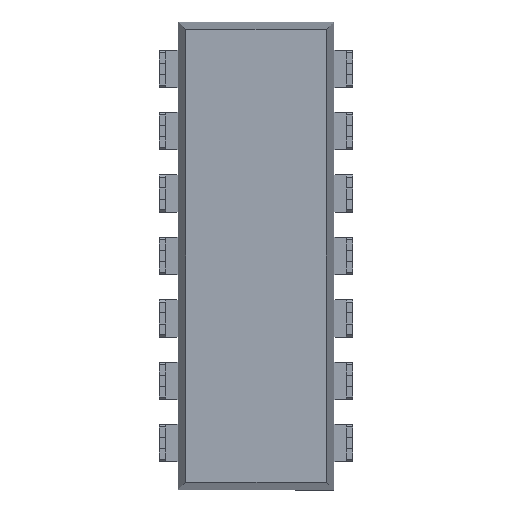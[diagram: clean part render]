
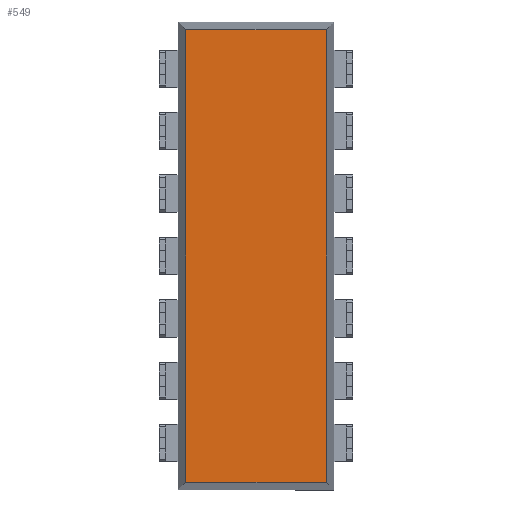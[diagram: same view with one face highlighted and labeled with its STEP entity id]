
A CAD part, front view. The second image highlights one B-rep face of the part: STEP entity #549.
In plain terms, the highlighted planar face has unit normal (0, -1, 0).
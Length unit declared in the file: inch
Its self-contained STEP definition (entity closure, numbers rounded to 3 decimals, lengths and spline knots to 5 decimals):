
#52 = ORIENTED_EDGE ( 'NONE', *, *, #1327, .T. ) ;
#146 = LINE ( 'NONE', #2403, #7204 ) ;
#169 = LINE ( 'NONE', #4476, #1226 ) ;
#240 = LINE ( 'NONE', #889, #4565 ) ;
#342 = CARTESIAN_POINT ( 'NONE',  ( 0., 0.015, 0. ) ) ;
#408 = VERTEX_POINT ( 'NONE', #6118 ) ;
#529 = EDGE_LOOP ( 'NONE', ( #7536, #52, #5809, #2800 ) ) ;
#549 = ADVANCED_FACE ( 'NONE', ( #5785 ), #1510, .T. ) ;
#889 = CARTESIAN_POINT ( 'NONE',  ( 0.125, 0.015, 0.36282 ) ) ;
#1186 = LINE ( 'NONE', #4885, #7473 ) ;
#1226 = VECTOR ( 'NONE', #2686, 39.37008 ) ;
#1327 = EDGE_CURVE ( 'NONE', #408, #7391, #169, .T. ) ;
#1510 = PLANE ( 'NONE',  #4557 ) ;
#2055 = DIRECTION ( 'NONE',  ( 0., -1., 0. ) ) ;
#2403 = CARTESIAN_POINT ( 'NONE',  ( -0.11282, 0.015, 0.375 ) ) ;
#2686 = DIRECTION ( 'NONE',  ( 1., 0., 0. ) ) ;
#2800 = ORIENTED_EDGE ( 'NONE', *, *, #4872, .T. ) ;
#3131 = DIRECTION ( 'NONE',  ( 0., 0., 1. ) ) ;
#4133 = EDGE_CURVE ( 'NONE', #7391, #6968, #1186, .T. ) ;
#4476 = CARTESIAN_POINT ( 'NONE',  ( -0.125, 0.015, -0.36282 ) ) ;
#4557 = AXIS2_PLACEMENT_3D ( 'NONE', #342, #2055, #5674 ) ;
#4565 = VECTOR ( 'NONE', #5718, 39.37008 ) ;
#4773 = DIRECTION ( 'NONE',  ( 0., 0., -1. ) ) ;
#4872 = EDGE_CURVE ( 'NONE', #6968, #5784, #240, .T. ) ;
#4885 = CARTESIAN_POINT ( 'NONE',  ( 0.11282, 0.015, -0.375 ) ) ;
#4937 = CARTESIAN_POINT ( 'NONE',  ( 0.11282, 0.015, 0.36282 ) ) ;
#5084 = EDGE_CURVE ( 'NONE', #5784, #408, #146, .T. ) ;
#5674 = DIRECTION ( 'NONE',  ( 0., 0., -1. ) ) ;
#5718 = DIRECTION ( 'NONE',  ( -1., 0., 0. ) ) ;
#5784 = VERTEX_POINT ( 'NONE', #6011 ) ;
#5785 = FACE_OUTER_BOUND ( 'NONE', #529, .T. ) ;
#5809 = ORIENTED_EDGE ( 'NONE', *, *, #4133, .T. ) ;
#6011 = CARTESIAN_POINT ( 'NONE',  ( -0.11282, 0.015, 0.36282 ) ) ;
#6118 = CARTESIAN_POINT ( 'NONE',  ( -0.11282, 0.015, -0.36282 ) ) ;
#6802 = CARTESIAN_POINT ( 'NONE',  ( 0.11282, 0.015, -0.36282 ) ) ;
#6968 = VERTEX_POINT ( 'NONE', #4937 ) ;
#7204 = VECTOR ( 'NONE', #4773, 39.37008 ) ;
#7391 = VERTEX_POINT ( 'NONE', #6802 ) ;
#7473 = VECTOR ( 'NONE', #3131, 39.37008 ) ;
#7536 = ORIENTED_EDGE ( 'NONE', *, *, #5084, .T. ) ;
